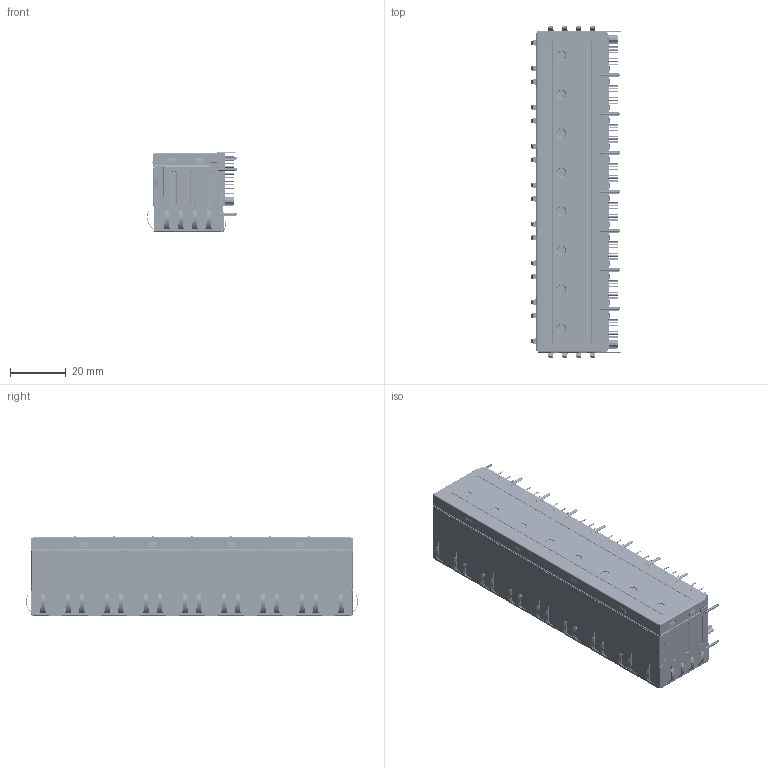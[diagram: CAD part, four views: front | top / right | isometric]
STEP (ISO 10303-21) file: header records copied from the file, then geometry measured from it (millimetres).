
FILE_DESCRIPTION((''),'2;1');
FILE_NAME('TK_ASM','2019-11-13T11:42:06',('Administrator'),(''),'CREO PARAMETRIC BY PTC INC, 2018400','CREO PARAMETRIC BY PTC INC, 2018400','');
FILE_SCHEMA(('CONFIG_CONTROL_DESIGN'));
Products named in the file (8): T1; TK2; SU; LED; Y; D; X; TK_ASM
Assembly tree (403 placements, depth 2):
  TK_ASM
    T1
    TK2
    SU
    LED  x32
    Y  x176
    D  x64
    X  x128
Bounding box: 32.31 x 118.99 x 28.6 mm (x, y, z)
Volume: 38190.4 mm3; surface area: 61744.3 mm2
Topology: 403 solids, 403 shells, 10442 faces, 25715 edges, 16528 vertices
Faces by surface type: plane 7132, cylinder 2842, bspline 300, torus 156, cone 8, sphere 4
Entity records: 230102 total; most frequent: CARTESIAN_POINT 49819, ORIENTED_EDGE 37186, DIRECTION 36725, EDGE_CURVE 18593, VECTOR 13771, LINE 13771, VERTEX_POINT 11780, AXIS2_PLACEMENT_3D 11477
